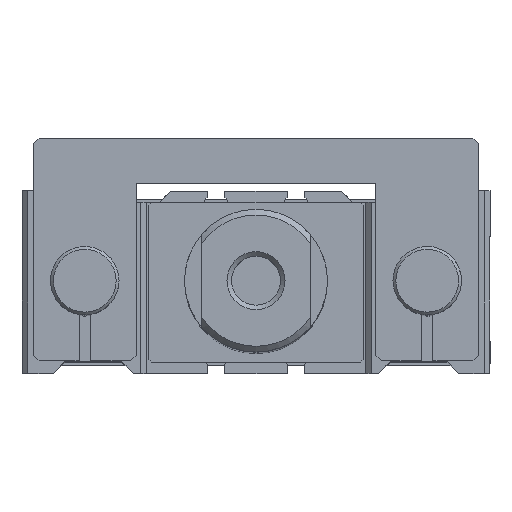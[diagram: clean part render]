
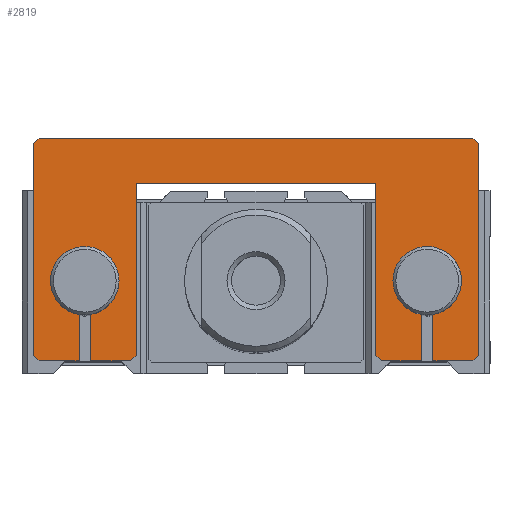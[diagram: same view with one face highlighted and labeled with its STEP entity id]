
A CAD part, top view. The second image highlights one B-rep face of the part: STEP entity #2819.
In plain terms, the highlighted planar face has unit normal (0, 0, 1).
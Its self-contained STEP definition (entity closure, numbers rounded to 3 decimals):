
#291=CARTESIAN_POINT('',(-29.0,-5.916,179.0));
#292=VERTEX_POINT('',#291);
#293=CARTESIAN_POINT('',(-31.0,-5.916,179.0));
#294=VERTEX_POINT('',#293);
#295=CARTESIAN_POINT('',(-30.0,0.0,179.0));
#296=DIRECTION('',(0.0,0.0,1.0));
#297=DIRECTION('',(0.0,-1.0,0.0));
#298=AXIS2_PLACEMENT_3D('',#295,#296,#297);
#299=CIRCLE('',#298,6.);
#300=EDGE_CURVE('',#292,#294,#299,.T.);
#378=CARTESIAN_POINT('',(31.,-5.916,179.0));
#379=VERTEX_POINT('',#378);
#380=CARTESIAN_POINT('',(29.,-5.916,179.0));
#381=VERTEX_POINT('',#380);
#382=CARTESIAN_POINT('',(30.0,0.0,179.0));
#383=DIRECTION('',(0.0,0.0,1.0));
#384=DIRECTION('',(0.0,-1.0,0.0));
#385=AXIS2_PLACEMENT_3D('',#382,#383,#384);
#386=CIRCLE('',#385,6.);
#387=EDGE_CURVE('',#379,#381,#386,.T.);
#2365=CARTESIAN_POINT('',(-39.0,24.,179.0));
#2366=VERTEX_POINT('',#2365);
#2367=CARTESIAN_POINT('',(-38.0,25.,179.0));
#2368=VERTEX_POINT('',#2367);
#2369=CARTESIAN_POINT('',(-39.0,24.,179.0));
#2370=DIRECTION('',(0.707,0.707,0.0));
#2371=VECTOR('',#2370,1.414);
#2372=LINE('',#2369,#2371);
#2373=EDGE_CURVE('',#2366,#2368,#2372,.T.);
#2429=CARTESIAN_POINT('',(-39.0,-13.,179.0));
#2430=VERTEX_POINT('',#2429);
#2437=CARTESIAN_POINT('',(-39.0,24.,179.0));
#2438=DIRECTION('',(0.0,-1.0,0.0));
#2439=VECTOR('',#2438,37.0);
#2440=LINE('',#2437,#2439);
#2441=EDGE_CURVE('',#2366,#2430,#2440,.T.);
#2622=CARTESIAN_POINT('',(38.0,25.,179.0));
#2623=VERTEX_POINT('',#2622);
#2630=CARTESIAN_POINT('',(39.0,24.,179.0));
#2631=VERTEX_POINT('',#2630);
#2632=CARTESIAN_POINT('',(38.0,25.,179.0));
#2633=DIRECTION('',(0.707,-0.707,0.0));
#2634=VECTOR('',#2633,1.414);
#2635=LINE('',#2632,#2634);
#2636=EDGE_CURVE('',#2623,#2631,#2635,.T.);
#2653=CARTESIAN_POINT('',(39.0,-13.,179.0));
#2654=VERTEX_POINT('',#2653);
#2655=CARTESIAN_POINT('',(39.0,-13.,179.0));
#2656=DIRECTION('',(0.0,1.0,0.0));
#2657=VECTOR('',#2656,37.0);
#2658=LINE('',#2655,#2657);
#2659=EDGE_CURVE('',#2654,#2631,#2658,.T.);
#2686=CARTESIAN_POINT('',(0.0,-14.,179.0));
#2687=DIRECTION('',(0.0,0.0,1.0));
#2688=DIRECTION('',(1.0,0.0,0.0));
#2689=AXIS2_PLACEMENT_3D('',#2686,#2687,#2688);
#2690=PLANE('',#2689);
#2691=ORIENTED_EDGE('',*,*,#2373,.F.);
#2692=ORIENTED_EDGE('',*,*,#2441,.T.);
#2693=CARTESIAN_POINT('',(-38.0,-14.,179.0));
#2694=VERTEX_POINT('',#2693);
#2695=CARTESIAN_POINT('',(-38.0,-14.,179.0));
#2696=DIRECTION('',(-0.707,0.707,0.0));
#2697=VECTOR('',#2696,1.414);
#2698=LINE('',#2695,#2697);
#2699=EDGE_CURVE('',#2694,#2430,#2698,.T.);
#2700=ORIENTED_EDGE('',*,*,#2699,.F.);
#2701=CARTESIAN_POINT('',(-31.0,-14.,179.0));
#2702=VERTEX_POINT('',#2701);
#2703=CARTESIAN_POINT('',(-38.0,-14.,179.0));
#2704=DIRECTION('',(1.0,0.0,0.0));
#2705=VECTOR('',#2704,7.0);
#2706=LINE('',#2703,#2705);
#2707=EDGE_CURVE('',#2694,#2702,#2706,.T.);
#2708=ORIENTED_EDGE('',*,*,#2707,.T.);
#2709=CARTESIAN_POINT('',(-31.0,-14.,179.0));
#2710=DIRECTION('',(0.0,1.0,0.0));
#2711=VECTOR('',#2710,8.084);
#2712=LINE('',#2709,#2711);
#2713=EDGE_CURVE('',#2702,#294,#2712,.T.);
#2714=ORIENTED_EDGE('',*,*,#2713,.T.);
#2715=ORIENTED_EDGE('',*,*,#300,.F.);
#2716=CARTESIAN_POINT('',(-29.0,-14.,179.0));
#2717=VERTEX_POINT('',#2716);
#2718=CARTESIAN_POINT('',(-29.0,-5.916,179.0));
#2719=DIRECTION('',(0.0,-1.0,0.0));
#2720=VECTOR('',#2719,8.084);
#2721=LINE('',#2718,#2720);
#2722=EDGE_CURVE('',#292,#2717,#2721,.T.);
#2723=ORIENTED_EDGE('',*,*,#2722,.T.);
#2724=CARTESIAN_POINT('',(-22.0,-14.,179.0));
#2725=VERTEX_POINT('',#2724);
#2726=CARTESIAN_POINT('',(-29.0,-14.,179.0));
#2727=DIRECTION('',(1.0,0.0,0.0));
#2728=VECTOR('',#2727,7.0);
#2729=LINE('',#2726,#2728);
#2730=EDGE_CURVE('',#2717,#2725,#2729,.T.);
#2731=ORIENTED_EDGE('',*,*,#2730,.T.);
#2732=CARTESIAN_POINT('',(-21.0,-13.,179.0));
#2733=VERTEX_POINT('',#2732);
#2734=CARTESIAN_POINT('',(-21.0,-13.,179.0));
#2735=DIRECTION('',(-0.707,-0.707,0.0));
#2736=VECTOR('',#2735,1.414);
#2737=LINE('',#2734,#2736);
#2738=EDGE_CURVE('',#2733,#2725,#2737,.T.);
#2739=ORIENTED_EDGE('',*,*,#2738,.F.);
#2740=CARTESIAN_POINT('',(-21.0,17.,179.0));
#2741=VERTEX_POINT('',#2740);
#2742=CARTESIAN_POINT('',(-21.0,-13.,179.0));
#2743=DIRECTION('',(0.0,1.0,0.0));
#2744=VECTOR('',#2743,30.0);
#2745=LINE('',#2742,#2744);
#2746=EDGE_CURVE('',#2733,#2741,#2745,.T.);
#2747=ORIENTED_EDGE('',*,*,#2746,.T.);
#2748=CARTESIAN_POINT('',(21.0,17.,179.0));
#2749=VERTEX_POINT('',#2748);
#2750=CARTESIAN_POINT('',(-21.0,17.,179.0));
#2751=DIRECTION('',(1.0,0.0,0.0));
#2752=VECTOR('',#2751,42.0);
#2753=LINE('',#2750,#2752);
#2754=EDGE_CURVE('',#2741,#2749,#2753,.T.);
#2755=ORIENTED_EDGE('',*,*,#2754,.T.);
#2756=CARTESIAN_POINT('',(21.0,-13.,179.0));
#2757=VERTEX_POINT('',#2756);
#2758=CARTESIAN_POINT('',(21.0,17.,179.0));
#2759=DIRECTION('',(0.0,-1.0,0.0));
#2760=VECTOR('',#2759,30.0);
#2761=LINE('',#2758,#2760);
#2762=EDGE_CURVE('',#2749,#2757,#2761,.T.);
#2763=ORIENTED_EDGE('',*,*,#2762,.T.);
#2764=CARTESIAN_POINT('',(22.0,-14.,179.0));
#2765=VERTEX_POINT('',#2764);
#2766=CARTESIAN_POINT('',(22.0,-14.,179.0));
#2767=DIRECTION('',(-0.707,0.707,0.0));
#2768=VECTOR('',#2767,1.414);
#2769=LINE('',#2766,#2768);
#2770=EDGE_CURVE('',#2765,#2757,#2769,.T.);
#2771=ORIENTED_EDGE('',*,*,#2770,.F.);
#2772=CARTESIAN_POINT('',(29.,-14.,179.0));
#2773=VERTEX_POINT('',#2772);
#2774=CARTESIAN_POINT('',(22.0,-14.,179.0));
#2775=DIRECTION('',(1.0,0.0,0.0));
#2776=VECTOR('',#2775,7.);
#2777=LINE('',#2774,#2776);
#2778=EDGE_CURVE('',#2765,#2773,#2777,.T.);
#2779=ORIENTED_EDGE('',*,*,#2778,.T.);
#2780=CARTESIAN_POINT('',(29.,-14.,179.0));
#2781=DIRECTION('',(0.0,1.0,0.0));
#2782=VECTOR('',#2781,8.084);
#2783=LINE('',#2780,#2782);
#2784=EDGE_CURVE('',#2773,#381,#2783,.T.);
#2785=ORIENTED_EDGE('',*,*,#2784,.T.);
#2786=ORIENTED_EDGE('',*,*,#387,.F.);
#2787=CARTESIAN_POINT('',(31.,-14.,179.0));
#2788=VERTEX_POINT('',#2787);
#2789=CARTESIAN_POINT('',(31.,-5.916,179.0));
#2790=DIRECTION('',(0.0,-1.0,0.0));
#2791=VECTOR('',#2790,8.084);
#2792=LINE('',#2789,#2791);
#2793=EDGE_CURVE('',#379,#2788,#2792,.T.);
#2794=ORIENTED_EDGE('',*,*,#2793,.T.);
#2795=CARTESIAN_POINT('',(38.0,-14.,179.0));
#2796=VERTEX_POINT('',#2795);
#2797=CARTESIAN_POINT('',(31.,-14.,179.0));
#2798=DIRECTION('',(1.0,0.0,0.0));
#2799=VECTOR('',#2798,7.);
#2800=LINE('',#2797,#2799);
#2801=EDGE_CURVE('',#2788,#2796,#2800,.T.);
#2802=ORIENTED_EDGE('',*,*,#2801,.T.);
#2803=CARTESIAN_POINT('',(39.0,-13.,179.0));
#2804=DIRECTION('',(-0.707,-0.707,0.0));
#2805=VECTOR('',#2804,1.414);
#2806=LINE('',#2803,#2805);
#2807=EDGE_CURVE('',#2654,#2796,#2806,.T.);
#2808=ORIENTED_EDGE('',*,*,#2807,.F.);
#2809=ORIENTED_EDGE('',*,*,#2659,.T.);
#2810=ORIENTED_EDGE('',*,*,#2636,.F.);
#2811=CARTESIAN_POINT('',(-38.0,25.,179.0));
#2812=DIRECTION('',(1.0,0.0,0.0));
#2813=VECTOR('',#2812,76.0);
#2814=LINE('',#2811,#2813);
#2815=EDGE_CURVE('',#2368,#2623,#2814,.T.);
#2816=ORIENTED_EDGE('',*,*,#2815,.F.);
#2817=EDGE_LOOP('',(#2691,#2692,#2700,#2708,#2714,#2715,#2723,#2731,#2739,#2747,#2755,#2763,#2771,#2779,#2785,#2786,#2794,#2802,#2808,#2809,#2810,#2816));
#2818=FACE_OUTER_BOUND('',#2817,.T.);
#2819=ADVANCED_FACE('',(#2818),#2690,.T.);
